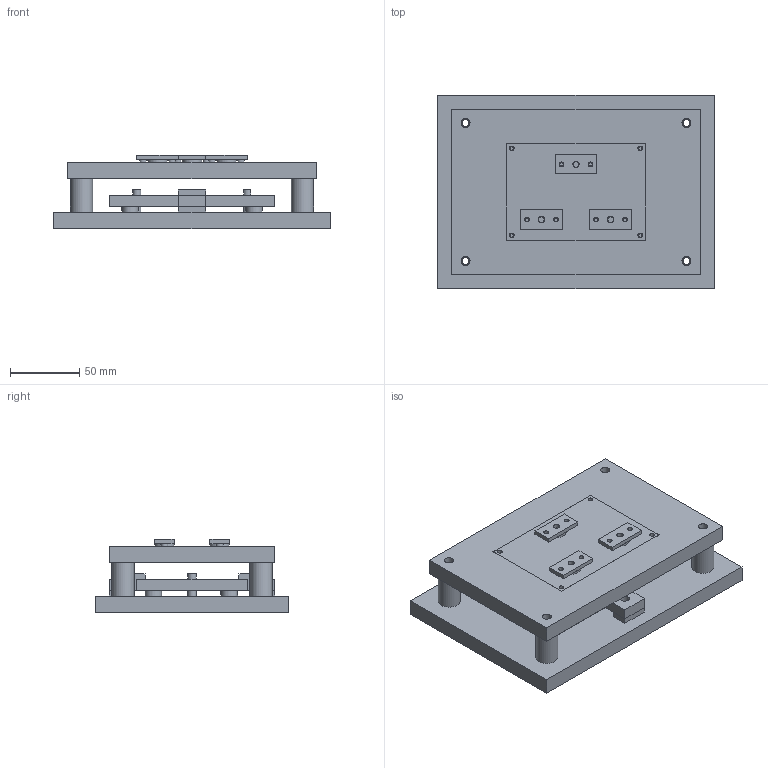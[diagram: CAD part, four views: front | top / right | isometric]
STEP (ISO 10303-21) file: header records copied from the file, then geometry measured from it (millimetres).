
FILE_DESCRIPTION(('Open CASCADE Model'),'2;1');
FILE_NAME('Open CASCADE Shape Model','2026-10-28T05:16:18',('Author'),( 'Open CASCADE'),'Open CASCADE STEP processor 7.8','Open CASCADE 7.8' ,'Unknown');
FILE_SCHEMA(('AUTOMOTIVE_DESIGN { 1 0 10303 214 1 1 1 1 }'));
Length unit declared in the file: millimetre
Products named in the file (24): Open CASCADE STEP translator 7.8 1; Open CASCADE STEP translator 7.8 1.1; Open CASCADE STEP translator 7.8 1.2; Open CASCADE STEP translator 7.8 1.3; Open CASCADE STEP translator 7.8 1.4; Open CASCADE STEP translator 7.8 1.5; Open CASCADE STEP translator 7.8 1.6; Open CASCADE STEP translator 7.8 1.7; Open CASCADE STEP translator 7.8 1.8; Open CASCADE STEP translator 7.8 1.9; Open CASCADE STEP translator 7.8 1.10; Open CASCADE STEP translator 7.8 1.11; Open CASCADE STEP translator 7.8 1.12; Open CASCADE STEP translator 7.8 1.13; Open CASCADE STEP translator 7.8 1.14; Open CASCADE STEP translator 7.8 1.15; Open CASCADE STEP translator 7.8 1.16; Open CASCADE STEP translator 7.8 1.17; Open CASCADE STEP translator 7.8 1.18; Open CASCADE STEP translator 7.8 1.19; Open CASCADE STEP translator 7.8 1.20; Open CASCADE STEP translator 7.8 1.21; Open CASCADE STEP translator 7.8 1.22; Open CASCADE STEP translator 7.8 1.23
Assembly tree (23 placements, depth 2):
  Open CASCADE STEP translator 7.8 1
    Open CASCADE STEP translator 7.8 1.1
    Open CASCADE STEP translator 7.8 1.2
    Open CASCADE STEP translator 7.8 1.3
    Open CASCADE STEP translator 7.8 1.4
    Open CASCADE STEP translator 7.8 1.5
    Open CASCADE STEP translator 7.8 1.6
    Open CASCADE STEP translator 7.8 1.7
    Open CASCADE STEP translator 7.8 1.8
    Open CASCADE STEP translator 7.8 1.9
    Open CASCADE STEP translator 7.8 1.10
    Open CASCADE STEP translator 7.8 1.11
    Open CASCADE STEP translator 7.8 1.12
    Open CASCADE STEP translator 7.8 1.13
    Open CASCADE STEP translator 7.8 1.14
    Open CASCADE STEP translator 7.8 1.15
    Open CASCADE STEP translator 7.8 1.16
    Open CASCADE STEP translator 7.8 1.17
    Open CASCADE STEP translator 7.8 1.18
    Open CASCADE STEP translator 7.8 1.19
    Open CASCADE STEP translator 7.8 1.20
    Open CASCADE STEP translator 7.8 1.21
    Open CASCADE STEP translator 7.8 1.22
    Open CASCADE STEP translator 7.8 1.23
Bounding box: 200 x 140 x 53 mm (x, y, z)
Volume: 679610.7 mm3; surface area: 171633 mm2
Topology: 23 solids, 23 shells, 199 faces, 411 edges, 274 vertices
Faces by surface type: plane 126, cylinder 73
Full cylindrical faces by diameter (mm): 2.5 x10, 3.4 x10, 4.2 x3, 4.5 x3, 5 x16, 5.98 x3, 6.03 x2, 6.5 x6, 10 x6, 12 x3, 14 x3, 16 x4
Entity records: 11178 total; most frequent: DIRECTION 1797, CARTESIAN_POINT 1778, LINE 917, VECTOR 917, ORIENTED_EDGE 822, PCURVE 822, DEFINITIONAL_REPRESENTATION 822, EDGE_CURVE 411
